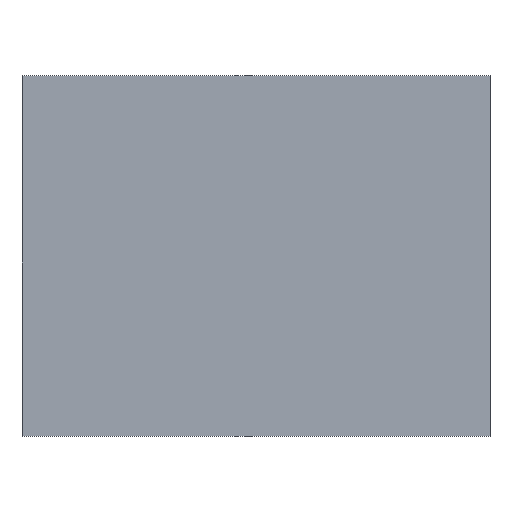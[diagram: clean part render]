
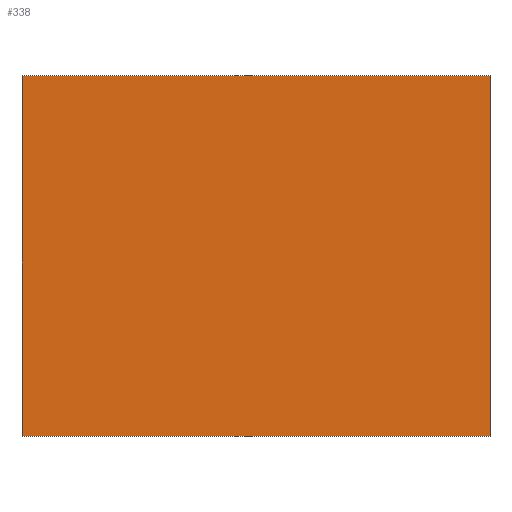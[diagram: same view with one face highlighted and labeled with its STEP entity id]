
A CAD part, top view. The second image highlights one B-rep face of the part: STEP entity #338.
In plain terms, the highlighted planar face has unit normal (0, 0, 1).
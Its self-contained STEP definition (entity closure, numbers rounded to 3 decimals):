
#24 = VERTEX_POINT('',#25);
#25 = CARTESIAN_POINT('',(-100.,8.,54.));
#32 = PLANE('',#33);
#33 = AXIS2_PLACEMENT_3D('',#34,#35,#36);
#34 = CARTESIAN_POINT('',(-100.,8.,51.));
#35 = DIRECTION('',(1.,0.,0.));
#36 = DIRECTION('',(0.,0.,1.));
#44 = PLANE('',#45);
#45 = AXIS2_PLACEMENT_3D('',#46,#47,#48);
#46 = CARTESIAN_POINT('',(-100.,8.,51.));
#47 = DIRECTION('',(0.,1.,0.));
#48 = DIRECTION('',(0.,0.,1.));
#85 = VERTEX_POINT('',#86);
#86 = CARTESIAN_POINT('',(-100.,162.,54.));
#100 = PLANE('',#101);
#101 = AXIS2_PLACEMENT_3D('',#102,#103,#104);
#102 = CARTESIAN_POINT('',(-100.,162.,51.));
#103 = DIRECTION('',(0.,1.,0.));
#104 = DIRECTION('',(0.,0.,1.));
#112 = EDGE_CURVE('',#24,#85,#113,.T.);
#113 = SURFACE_CURVE('',#114,(#118,#125),.PCURVE_S1.);
#114 = LINE('',#115,#116);
#115 = CARTESIAN_POINT('',(-100.,8.,54.));
#116 = VECTOR('',#117,1.);
#117 = DIRECTION('',(0.,1.,0.));
#118 = PCURVE('',#32,#119);
#119 = DEFINITIONAL_REPRESENTATION('',(#120),#124);
#120 = LINE('',#121,#122);
#121 = CARTESIAN_POINT('',(3.,0.));
#122 = VECTOR('',#123,1.);
#123 = DIRECTION('',(0.,-1.));
#124 = ( GEOMETRIC_REPRESENTATION_CONTEXT(2) 
PARAMETRIC_REPRESENTATION_CONTEXT() REPRESENTATION_CONTEXT('2D SPACE',''
  ) );
#125 = PCURVE('',#126,#131);
#126 = PLANE('',#127);
#127 = AXIS2_PLACEMENT_3D('',#128,#129,#130);
#128 = CARTESIAN_POINT('',(-100.,8.,54.));
#129 = DIRECTION('',(0.,0.,1.));
#130 = DIRECTION('',(1.,0.,0.));
#131 = DEFINITIONAL_REPRESENTATION('',(#132),#136);
#132 = LINE('',#133,#134);
#133 = CARTESIAN_POINT('',(0.,0.));
#134 = VECTOR('',#135,1.);
#135 = DIRECTION('',(0.,1.));
#136 = ( GEOMETRIC_REPRESENTATION_CONTEXT(2) 
PARAMETRIC_REPRESENTATION_CONTEXT() REPRESENTATION_CONTEXT('2D SPACE',''
  ) );
#144 = VERTEX_POINT('',#145);
#145 = CARTESIAN_POINT('',(100.,8.,54.));
#152 = PLANE('',#153);
#153 = AXIS2_PLACEMENT_3D('',#154,#155,#156);
#154 = CARTESIAN_POINT('',(100.,8.,51.));
#155 = DIRECTION('',(1.,0.,0.));
#156 = DIRECTION('',(0.,0.,1.));
#195 = VERTEX_POINT('',#196);
#196 = CARTESIAN_POINT('',(100.,162.,54.));
#217 = EDGE_CURVE('',#144,#195,#218,.T.);
#218 = SURFACE_CURVE('',#219,(#223,#230),.PCURVE_S1.);
#219 = LINE('',#220,#221);
#220 = CARTESIAN_POINT('',(100.,8.,54.));
#221 = VECTOR('',#222,1.);
#222 = DIRECTION('',(0.,1.,0.));
#223 = PCURVE('',#152,#224);
#224 = DEFINITIONAL_REPRESENTATION('',(#225),#229);
#225 = LINE('',#226,#227);
#226 = CARTESIAN_POINT('',(3.,0.));
#227 = VECTOR('',#228,1.);
#228 = DIRECTION('',(0.,-1.));
#229 = ( GEOMETRIC_REPRESENTATION_CONTEXT(2) 
PARAMETRIC_REPRESENTATION_CONTEXT() REPRESENTATION_CONTEXT('2D SPACE',''
  ) );
#230 = PCURVE('',#126,#231);
#231 = DEFINITIONAL_REPRESENTATION('',(#232),#236);
#232 = LINE('',#233,#234);
#233 = CARTESIAN_POINT('',(200.,0.));
#234 = VECTOR('',#235,1.);
#235 = DIRECTION('',(0.,1.));
#236 = ( GEOMETRIC_REPRESENTATION_CONTEXT(2) 
PARAMETRIC_REPRESENTATION_CONTEXT() REPRESENTATION_CONTEXT('2D SPACE',''
  ) );
#263 = EDGE_CURVE('',#24,#144,#264,.T.);
#264 = SURFACE_CURVE('',#265,(#269,#276),.PCURVE_S1.);
#265 = LINE('',#266,#267);
#266 = CARTESIAN_POINT('',(-100.,8.,54.));
#267 = VECTOR('',#268,1.);
#268 = DIRECTION('',(1.,0.,0.));
#269 = PCURVE('',#44,#270);
#270 = DEFINITIONAL_REPRESENTATION('',(#271),#275);
#271 = LINE('',#272,#273);
#272 = CARTESIAN_POINT('',(3.,0.));
#273 = VECTOR('',#274,1.);
#274 = DIRECTION('',(0.,1.));
#275 = ( GEOMETRIC_REPRESENTATION_CONTEXT(2) 
PARAMETRIC_REPRESENTATION_CONTEXT() REPRESENTATION_CONTEXT('2D SPACE',''
  ) );
#276 = PCURVE('',#126,#277);
#277 = DEFINITIONAL_REPRESENTATION('',(#278),#282);
#278 = LINE('',#279,#280);
#279 = CARTESIAN_POINT('',(0.,0.));
#280 = VECTOR('',#281,1.);
#281 = DIRECTION('',(1.,0.));
#282 = ( GEOMETRIC_REPRESENTATION_CONTEXT(2) 
PARAMETRIC_REPRESENTATION_CONTEXT() REPRESENTATION_CONTEXT('2D SPACE',''
  ) );
#310 = EDGE_CURVE('',#85,#195,#311,.T.);
#311 = SURFACE_CURVE('',#312,(#316,#323),.PCURVE_S1.);
#312 = LINE('',#313,#314);
#313 = CARTESIAN_POINT('',(-100.,162.,54.));
#314 = VECTOR('',#315,1.);
#315 = DIRECTION('',(1.,0.,0.));
#316 = PCURVE('',#100,#317);
#317 = DEFINITIONAL_REPRESENTATION('',(#318),#322);
#318 = LINE('',#319,#320);
#319 = CARTESIAN_POINT('',(3.,0.));
#320 = VECTOR('',#321,1.);
#321 = DIRECTION('',(0.,1.));
#322 = ( GEOMETRIC_REPRESENTATION_CONTEXT(2) 
PARAMETRIC_REPRESENTATION_CONTEXT() REPRESENTATION_CONTEXT('2D SPACE',''
  ) );
#323 = PCURVE('',#126,#324);
#324 = DEFINITIONAL_REPRESENTATION('',(#325),#329);
#325 = LINE('',#326,#327);
#326 = CARTESIAN_POINT('',(0.,154.));
#327 = VECTOR('',#328,1.);
#328 = DIRECTION('',(1.,0.));
#329 = ( GEOMETRIC_REPRESENTATION_CONTEXT(2) 
PARAMETRIC_REPRESENTATION_CONTEXT() REPRESENTATION_CONTEXT('2D SPACE',''
  ) );
#338 = ADVANCED_FACE('',(#339),#126,.T.);
#339 = FACE_BOUND('',#340,.T.);
#340 = EDGE_LOOP('',(#341,#342,#343,#344));
#341 = ORIENTED_EDGE('',*,*,#112,.F.);
#342 = ORIENTED_EDGE('',*,*,#263,.T.);
#343 = ORIENTED_EDGE('',*,*,#217,.T.);
#344 = ORIENTED_EDGE('',*,*,#310,.F.);
